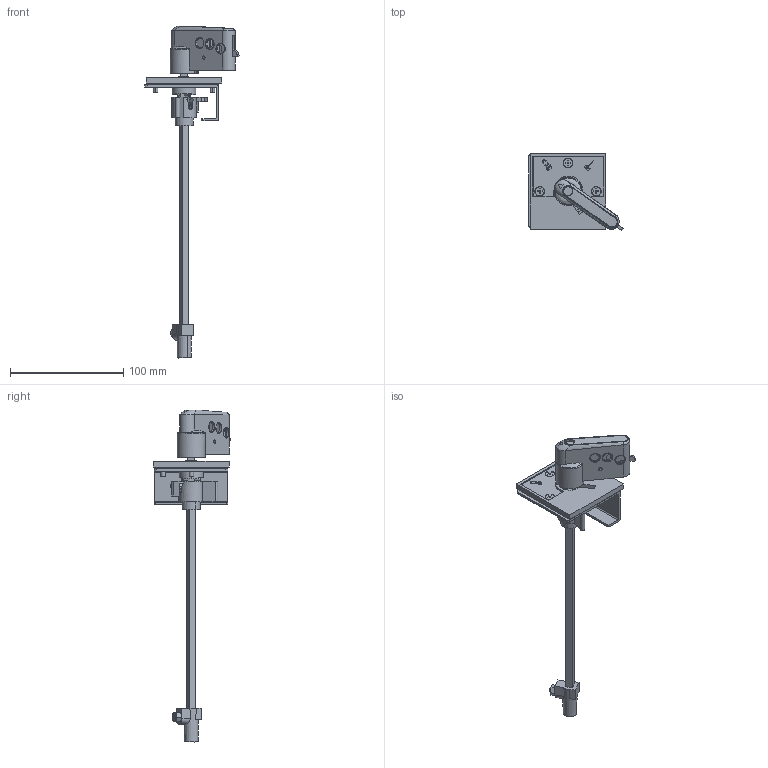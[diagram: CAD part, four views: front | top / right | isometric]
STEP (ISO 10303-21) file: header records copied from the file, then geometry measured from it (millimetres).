
FILE_DESCRIPTION (( 'STEP AP214' ), '1' );
FILE_NAME ('Extended rotary handle-GL-63-100.STEP', '2026-01-14T08:36:35', ( '' ), ( '' ), 'SwSTEP 2.0', 'SolidWorks 2024', '' );
FILE_SCHEMA (( 'AUTOMOTIVE_DESIGN' ));
Length unit declared in the file: millimetre
Products named in the file (26): 2_2_1_1_1.stp; Extended rotary handle-GL-63-100; 8TZD_271_6017_1_2_1_1_1.stp; ZHOUZUHE_ASM_10_ASM_1_1_ASM_1.stp; GB_T896-5_2_1_1_1.stp; LM46_1_1_1_1_1_1_1_1_3_1_1_1.stp; GL-63-100-202601_ASM_5_ASM_1_1_ASM_1.stp; GB_T879_1_3X14_1_2_1_1_1.stp; 8TZD_253_6176_1_2_1_1_1.stp; 6_5_1_1_1.stp; Extended rotary handle-GL-63-100.stp; GB_T71-M5X12_3_1_1_1.stp; 3_3_1_1_1.stp; SHOUBINZUO_ASM_13_ASM_1_1_ASM_1.stp; GL-63-100-202601_ASM_ASM_1_1_ASM_1.stp; 8_2_1_1_1.stp; 5TZD_253_6041_ASM_1_ASM_2_ASM_2_ASM_1.stp; 5_4_1_1_1.stp; 7_4_1_1_1.stp; 10_3_1_1_1.stp; 4_5_1_1_1.stp; X0_1_1_1_1_1_1_1_1_2_1_1_1.stp; XIAO_1_1_1_1_1_1_1_1_2_1_1_1.stp; 5TZD_253_6041_ASM_ASM_2_ASM_1_1_ASM_1.stp; GB_T6170-M5_2_1_1_1.stp; 1_2_1_1_1.stp
Assembly tree (28 placements, depth 7):
  Extended rotary handle-GL-63-100
    Extended rotary handle-GL-63-100.stp
      GL-63-100-202601_ASM_ASM_1_1_ASM_1.stp
        GL-63-100-202601_ASM_5_ASM_1_1_ASM_1.stp
          SHOUBINZUO_ASM_13_ASM_1_1_ASM_1.stp
            5_4_1_1_1.stp
            6_5_1_1_1.stp
            GB_T896-5_2_1_1_1.stp
            X0_1_1_1_1_1_1_1_1_2_1_1_1.stp
            XIAO_1_1_1_1_1_1_1_1_2_1_1_1.stp
            LM46_1_1_1_1_1_1_1_1_3_1_1_1.stp  x3
            8_2_1_1_1.stp
            10_3_1_1_1.stp
            1_2_1_1_1.stp
            2_2_1_1_1.stp
          ZHOUZUHE_ASM_10_ASM_1_1_ASM_1.stp
            3_3_1_1_1.stp
            4_5_1_1_1.stp
            7_4_1_1_1.stp
            GB_T71-M5X12_3_1_1_1.stp
            GB_T6170-M5_2_1_1_1.stp
            LM46_1_1_1_1_1_1_1_1_3_1_1_1.stp
          5TZD_253_6041_ASM_ASM_2_ASM_1_1_ASM_1.stp
            5TZD_253_6041_ASM_1_ASM_2_ASM_2_ASM_1.stp
              8TZD_253_6176_1_2_1_1_1.stp
              8TZD_271_6017_1_2_1_1_1.stp
              GB_T879_1_3X14_1_2_1_1_1.stp
Bounding box: 83.41 x 68.15 x 293.54 mm (x, y, z)
Volume: 60110.4 mm3; surface area: 71152.9 mm2
Topology: 17 solids, 27 shells, 960 faces, 2535 edges, 1630 vertices
Faces by surface type: plane 518, cylinder 279, bspline 67, cone 41, torus 29, sphere 26
Entity records: 35728 total; most frequent: CARTESIAN_POINT 13533, ORIENTED_EDGE 4588, DIRECTION 4266, EDGE_CURVE 2308, VERTEX_POINT 1492, AXIS2_PLACEMENT_3D 1451, VECTOR 1364, LINE 1364
